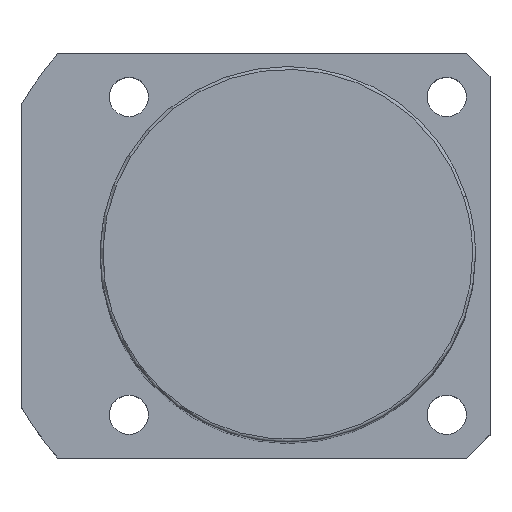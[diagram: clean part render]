
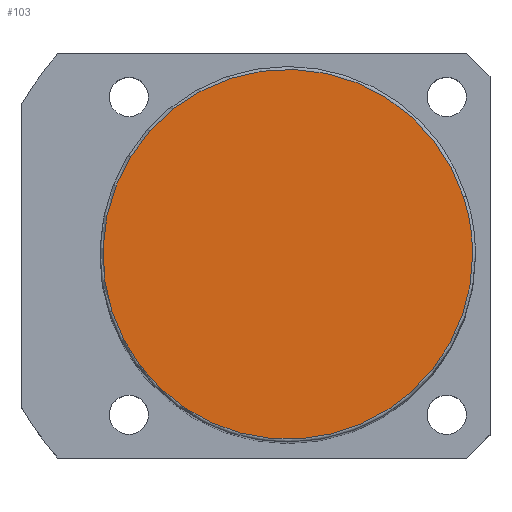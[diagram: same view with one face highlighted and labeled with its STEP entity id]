
A CAD part, top view. The second image highlights one B-rep face of the part: STEP entity #103.
In plain terms, the highlighted planar face has unit normal (0, 0, 1).
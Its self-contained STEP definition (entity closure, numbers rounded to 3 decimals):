
#16=CARTESIAN_POINT('',(-30.434,-9.889,171.0));
#17=VERTEX_POINT('',#16);
#54=CARTESIAN_POINT('',(30.434,9.889,171.0));
#55=VERTEX_POINT('',#54);
#63=CARTESIAN_POINT('',(32.0,0.0,171.0));
#64=VERTEX_POINT('',#63);
#65=CARTESIAN_POINT('',(0.0,0.0,171.0));
#66=DIRECTION('',(0.0,0.0,1.0));
#67=DIRECTION('',(1.0,0.0,0.0));
#68=AXIS2_PLACEMENT_3D('',#65,#66,#67);
#69=CIRCLE('',#68,32.0);
#70=EDGE_CURVE('no 898',#64,#55,#69,.T.);
#72=CARTESIAN_POINT('',(0.0,0.0,171.0));
#73=DIRECTION('',(0.0,0.0,1.0));
#74=DIRECTION('',(1.0,0.0,0.0));
#75=AXIS2_PLACEMENT_3D('',#72,#73,#74);
#76=CIRCLE('',#75,32.0);
#77=EDGE_CURVE('no 902',#17,#64,#76,.T.);
#87=ORIENTED_EDGE('',*,*,#70,.T.);
#88=CARTESIAN_POINT('',(0.0,0.0,171.0));
#89=DIRECTION('',(0.0,0.0,1.0));
#90=DIRECTION('',(1.0,0.0,0.0));
#91=AXIS2_PLACEMENT_3D('',#88,#89,#90);
#92=CIRCLE('',#91,32.0);
#93=EDGE_CURVE('no 911',#55,#17,#92,.T.);
#94=ORIENTED_EDGE('',*,*,#93,.T.);
#95=ORIENTED_EDGE('',*,*,#77,.T.);
#96=EDGE_LOOP('',(#87,#94,#95));
#97=FACE_OUTER_BOUND('',#96,.T.);
#98=CARTESIAN_POINT('',(0.0,0.0,171.0));
#99=DIRECTION('',(0.0,0.0,1.0));
#100=DIRECTION('',(1.0,0.0,0.0));
#101=AXIS2_PLACEMENT_3D('',#98,#99,#100);
#102=PLANE('',#101);
#103=ADVANCED_FACE('no 904',(#97),#102,.T.);
